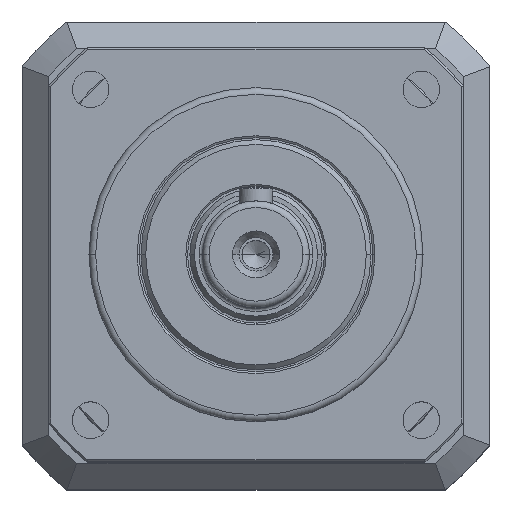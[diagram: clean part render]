
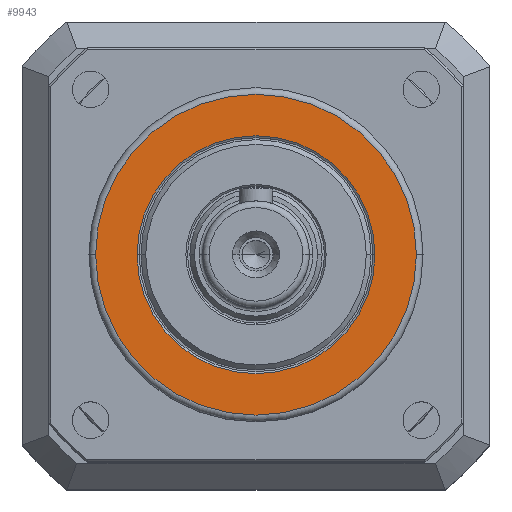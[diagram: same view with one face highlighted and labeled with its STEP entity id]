
A CAD part, top view. The second image highlights one B-rep face of the part: STEP entity #9943.
In plain terms, the highlighted planar face has unit normal (0, 0, 1).
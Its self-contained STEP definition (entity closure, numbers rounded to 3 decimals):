
#563 = DIRECTION ( 'NONE',  ( 1., 0., 0. ) ) ;
#1103 = CIRCLE ( 'NONE', #3324, 24. ) ;
#2237 = DIRECTION ( 'NONE',  ( 0., 0., 1. ) ) ;
#2548 = CARTESIAN_POINT ( 'NONE',  ( 17.8, 0., 7. ) ) ;
#2702 = CIRCLE ( 'NONE', #11940, 24. ) ;
#2749 = AXIS2_PLACEMENT_3D ( 'NONE', #3401, #11083, #3499 ) ;
#3053 = VERTEX_POINT ( 'NONE', #9274 ) ;
#3324 = AXIS2_PLACEMENT_3D ( 'NONE', #9534, #2237, #14018 ) ;
#3330 = AXIS2_PLACEMENT_3D ( 'NONE', #12098, #4713, #4513 ) ;
#3401 = CARTESIAN_POINT ( 'NONE',  ( 0., 0., 7. ) ) ;
#3499 = DIRECTION ( 'NONE',  ( 1., 0., 0. ) ) ;
#4077 = ORIENTED_EDGE ( 'NONE', *, *, #15813, .T. ) ;
#4152 = VERTEX_POINT ( 'NONE', #2548 ) ;
#4513 = DIRECTION ( 'NONE',  ( 1., 0., 0. ) ) ;
#4624 = CIRCLE ( 'NONE', #5906, 17.8 ) ;
#4713 = DIRECTION ( 'NONE',  ( 0., 0., -1. ) ) ;
#4718 = CARTESIAN_POINT ( 'NONE',  ( 0., 0., 7. ) ) ;
#4854 = EDGE_LOOP ( 'NONE', ( #10675, #4077 ) ) ;
#5364 = DIRECTION ( 'NONE',  ( 0., 0., -1. ) ) ;
#5906 = AXIS2_PLACEMENT_3D ( 'NONE', #9953, #5364, #563 ) ;
#6848 = EDGE_CURVE ( 'NONE', #4152, #7569, #10364, .T. ) ;
#7266 = CARTESIAN_POINT ( 'NONE',  ( -17.8, 0., 7. ) ) ;
#7569 = VERTEX_POINT ( 'NONE', #7266 ) ;
#8742 = EDGE_CURVE ( 'NONE', #3053, #10215, #1103, .T. ) ;
#9274 = CARTESIAN_POINT ( 'NONE',  ( 24., 0., 7. ) ) ;
#9534 = CARTESIAN_POINT ( 'NONE',  ( 0., 0., 7. ) ) ;
#9591 = FACE_BOUND ( 'NONE', #4854, .T. ) ;
#9943 = ADVANCED_FACE ( 'NONE', ( #9591, #14378 ), #14175, .T. ) ;
#9953 = CARTESIAN_POINT ( 'NONE',  ( 0., 0., 7. ) ) ;
#10215 = VERTEX_POINT ( 'NONE', #11227 ) ;
#10364 = CIRCLE ( 'NONE', #3330, 17.8 ) ;
#10675 = ORIENTED_EDGE ( 'NONE', *, *, #6848, .T. ) ;
#10798 = DIRECTION ( 'NONE',  ( 0., 0., 1. ) ) ;
#10883 = DIRECTION ( 'NONE',  ( 1., 0., 0. ) ) ;
#11083 = DIRECTION ( 'NONE',  ( 0., 0., 1. ) ) ;
#11227 = CARTESIAN_POINT ( 'NONE',  ( -24., 0., 7. ) ) ;
#11940 = AXIS2_PLACEMENT_3D ( 'NONE', #4718, #10798, #10883 ) ;
#12098 = CARTESIAN_POINT ( 'NONE',  ( 0., 0., 7. ) ) ;
#13783 = EDGE_LOOP ( 'NONE', ( #14203, #15812 ) ) ;
#14018 = DIRECTION ( 'NONE',  ( 1., 0., 0. ) ) ;
#14175 = PLANE ( 'NONE',  #2749 ) ;
#14203 = ORIENTED_EDGE ( 'NONE', *, *, #8742, .T. ) ;
#14378 = FACE_OUTER_BOUND ( 'NONE', #13783, .T. ) ;
#15366 = EDGE_CURVE ( 'NONE', #10215, #3053, #2702, .T. ) ;
#15812 = ORIENTED_EDGE ( 'NONE', *, *, #15366, .T. ) ;
#15813 = EDGE_CURVE ( 'NONE', #7569, #4152, #4624, .T. ) ;
